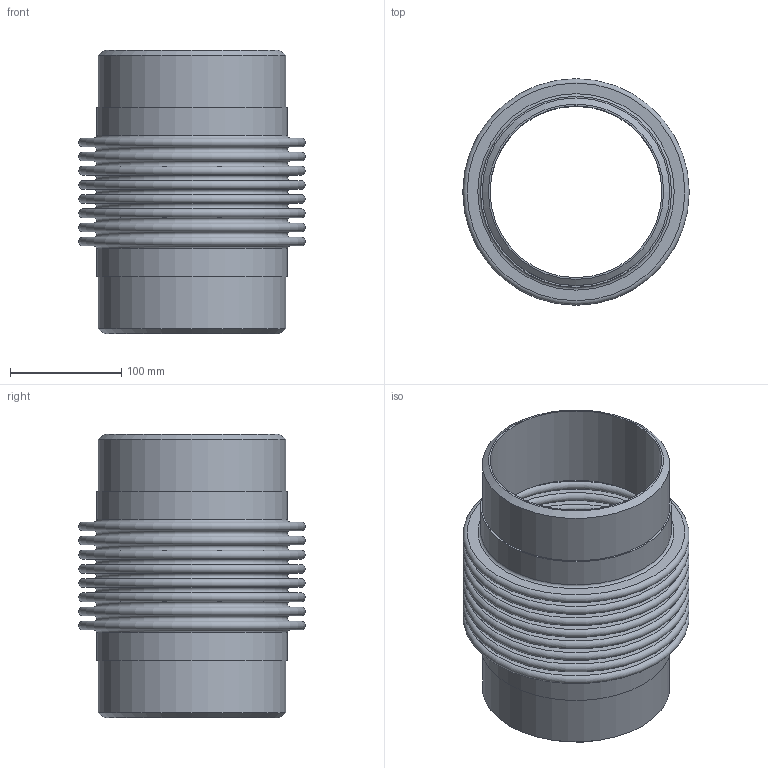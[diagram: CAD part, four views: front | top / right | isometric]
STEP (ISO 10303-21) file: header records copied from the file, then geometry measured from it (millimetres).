
FILE_DESCRIPTION(/* description */ ('EXPANSION JOINT,SINGLE, WELD ENDS,4 INCH NOMINAL'),/* implementation_level */ '2;1');
FILE_NAME(/* name */ 'US-6-300S- WELD-ENDS.stp',/* time_stamp */ '2026-07-28T10:30:32-05:00',/* author */ ('jorgef'),/* organization */ (''),/* preprocessor_version */ 'ST-DEVELOPER v20.1',/* originating_system */ 'Autodesk Inventor 2026',/* authorisation */ '');
FILE_SCHEMA (('AUTOMOTIVE_DESIGN { 1 0 10303 214 3 1 1 }'));
Length unit declared in the file: inch
Products named in the file (3): SINGLE STOCK  BELLOW WELDED ENDS  6- 300 PSIG; STOCK BELLOW - US-6-8-300S; PIPE- 6 -300 PSIG
Assembly tree (3 placements, depth 2):
  SINGLE STOCK  BELLOW WELDED ENDS  6- 300 PSIG
    STOCK BELLOW - US-6-8-300S
    PIPE- 6 -300 PSIG  x2
Bounding box: 203.2 x 203.2 x 254 mm (x, y, z)
Volume: 856310.9 mm3; surface area: 590079.6 mm2
Topology: 5 solids, 5 shells, 86 faces, 132 edges, 89 vertices
Faces by surface type: plane 42, torus 34, cylinder 8, cone 2
Full cylindrical faces by diameter (mm): 154.051 x2, 168.275 x4, 171.323 x2
Entity records: 2033 total; most frequent: DIRECTION 413, CARTESIAN_POINT 293, ORIENTED_EDGE 246, AXIS2_PLACEMENT_3D 203, EDGE_CURVE 123, EDGE_LOOP 121, CIRCLE 116, VERTEX_POINT 82
